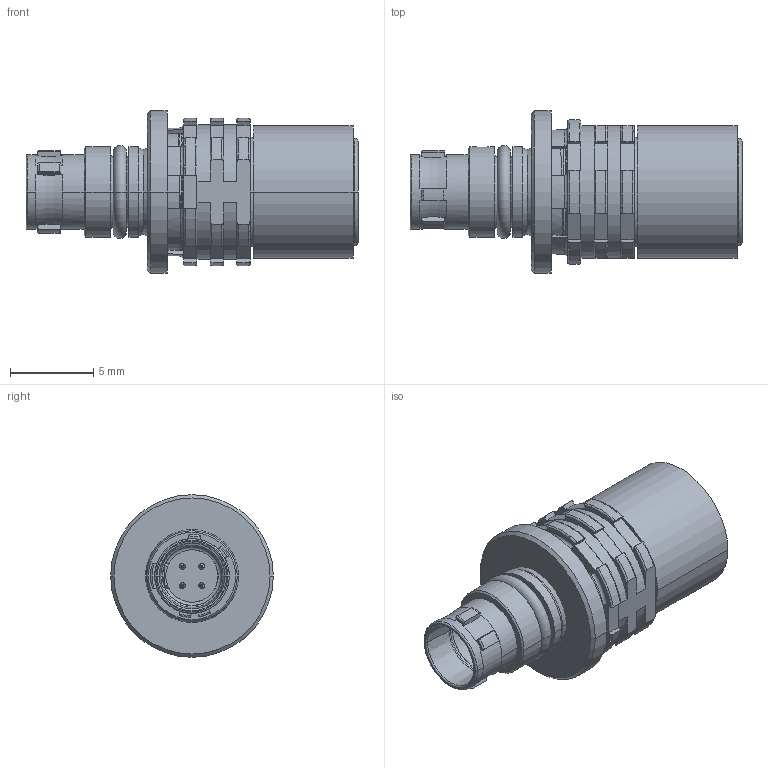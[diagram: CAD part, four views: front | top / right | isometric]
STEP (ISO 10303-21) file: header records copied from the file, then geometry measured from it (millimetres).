
FILE_DESCRIPTION((''),'2;1');
FILE_NAME('A1CWAM-P04XBC0-0000_SW0002','2015-02-17T',('Skoehler'),(''),'PRO/ENGINEER BY PARAMETRIC TECHNOLOGY CORPORATION, 2013050','PRO/ENGINEER BY PARAMETRIC TECHNOLOGY CORPORATION, 2013050','');
FILE_SCHEMA(('AUTOMOTIVE_DESIGN { 1 0 10303 214 1 1 1 1 }'));
Length unit declared in the file: millimetre
Products named in the file (1): A1CWAM-P04XBC0-0000_SW0002
Bounding box: 20 x 9.8 x 9.8 mm (x, y, z)
Volume: 440.2 mm3; surface area: 1486.8 mm2
Topology: 1 solids, 1 shells, 552 faces, 1498 edges, 929 vertices
Faces by surface type: plane 182, cylinder 155, torus 109, cone 84, bspline 14, sphere 8
Entity records: 30290 total; most frequent: CARTESIAN_POINT 12227, ORIENTED_EDGE 2964, DIRECTION 2961, EDGE_CURVE 1482, AXIS2_PLACEMENT_3D 1178, VERTEX_POINT 929, CIRCLE 640, VECTOR 605
